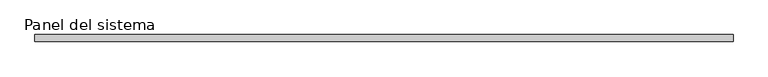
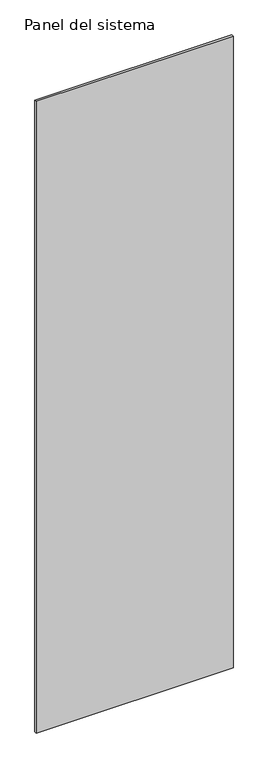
"""IFC4 building model written with IfcOpenShell, lengths in millimetres: plate geometry, Panel del sistema : HIANSA PANEL - PANELES DE CUBIERTA SIN TAPAJUNTA - EASY ALU 5GR - Esp. 10mm."""

from ifc_helpers import new_model, si_unit, origin, origin_with_axes, place, context, project, spatial, polyline, outline, extrude, source, transform, mapped, element, save


def panel_del_sistema_0874d057(model_context):
    return source(origin(), model_context, "Body", "SweptSolid", [
        extrude(outline(polyline([(500.0000002, 0.0), (-500.0000002, 0.0), (-500.0000002, 10.0), (500.0000002, 10.0), (500.0000002, 0.0)])), origin_with_axes(), (0.0, 0.0, 1.0), 3390.8509027),
    ])


if __name__ == "__main__":
    model = new_model("IFC4")
    model_context = context("Model", 3, world=origin())
    ifc_project = project(units=[si_unit("LENGTHUNIT", "METRE", prefix="MILLI")], contexts=[model_context])
    site = spatial("IfcSite", under=ifc_project)
    building = spatial("IfcBuilding", under=site)
    placement = place(None, origin())
    panel_del_sistema_shape = panel_del_sistema_0874d057(model_context)
    element("IfcPlate", 1, ObjectType="Panel del sistema : HIANSA PANEL - PANELES DE CUBIERTA SIN TAPAJUNTA - EASY ALU 5GR - Esp. 10mm", at=placement, inside=building, context=model_context, shape_type="MappedRepresentation", body=[
        mapped(panel_del_sistema_shape, transform((0.0, 0.0, 0.0), x_axis=(1.0, 0.0, 0.0), y_axis=(0.0, 1.0, 0.0), z_axis=(0.0, 0.0, 1.0))),
    ])
    save(model, "model.ifc")
